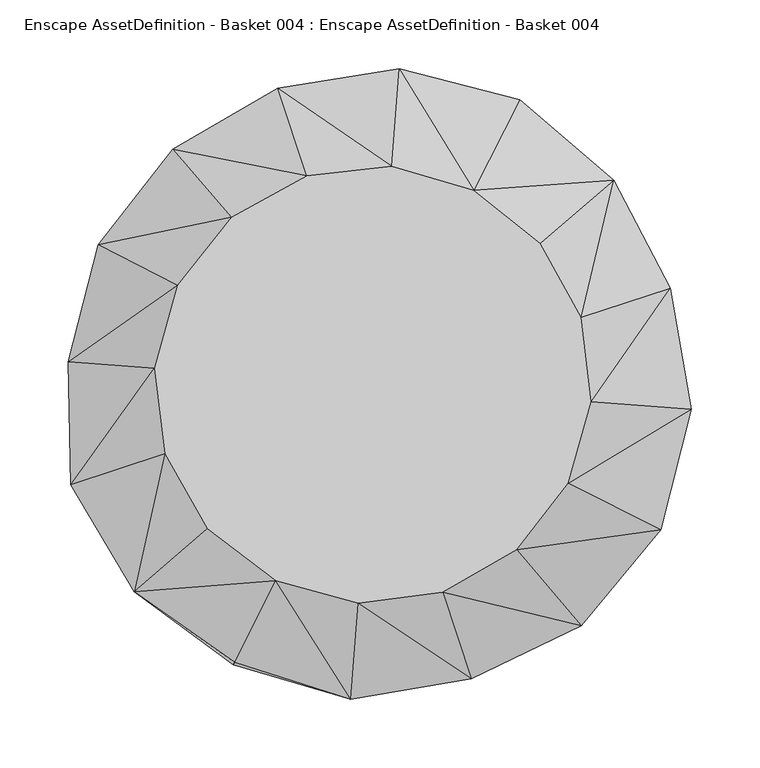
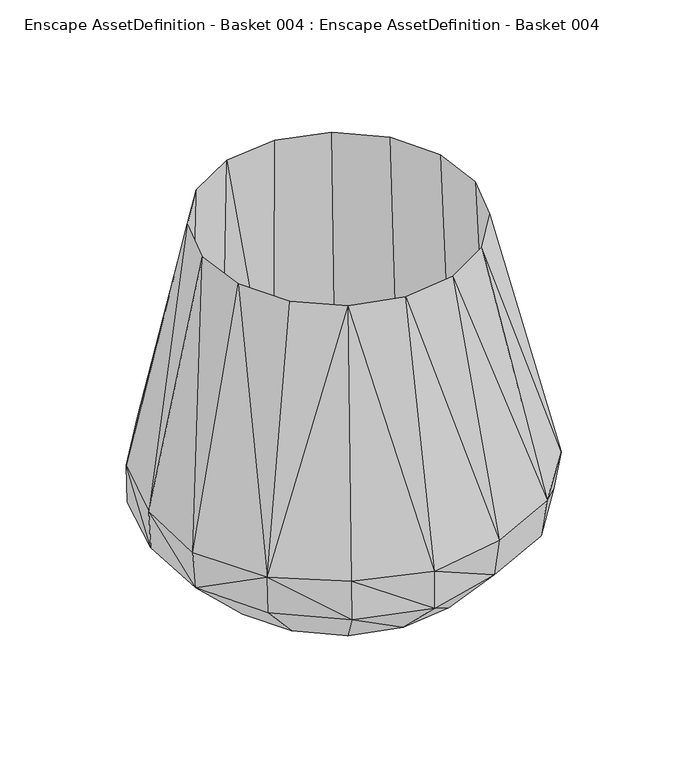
"""IFC4 building model written with IfcOpenShell, lengths in millimetres: geographic element geometry, Enscape AssetDefinition - Basket 004 : Enscape AssetDefinition - Basket 004."""

from ifc_helpers import new_model, si_unit, origin, place, context, project, spatial, triangles, source, transform, mapped, element, save


def enscape_assetdefinition_basket_004_enscape_assetdefinition_14d161dd(model_context):
    return source(origin(), model_context, "Body", "Tessellation", [
        triangles([(0.0, 0.0, 0.0), (153.7940101, -11.7659992, 0.0), (137.5849977, -69.7250001, 0.0), (100.4289989, -117.0689989, 0.0), (201.3480115, -102.0390024, 72.876997), (150.7560051, -175.7350037, 120.4959972), (146.3570004, -170.6060108, 72.876997), (208.5909924, -105.7099993, 120.4959972), (103.3339997, -120.403997, 429.558991), (70.2039952, -214.4729917, 120.4959972), (141.2300059, -71.6229992, 429.558991), (58.1070001, -164.2650098, 56.869998), (-12.1819997, -159.3640008, 429.558991), (49.5590026, -151.2729976, 429.558991), (-8.1850001, -172.9560127, 56.869998), (116.3400008, -130.8880046, 56.869998), (230.7759936, -17.6560001, 120.4959972), (157.8249959, -12.1280002, 429.558991), (157.3100019, -78.1499991, 56.869998), (175.2430098, -13.5940001, 56.869998), (150.6269978, 49.2919994, 429.558991), (215.722988, 70.6129955, 120.4959972), (167.4679938, 52.3380027, 56.869998), (174.3809984, 149.5950113, 120.4959972), (226.5450019, -17.332001, 72.876997), (212.5779947, 69.5839976, 72.876997), (169.9620094, 145.804, 72.876997), (102.3809964, 202.0230067, 72.876997), (146.5899985, 47.9839988, 0.0), (117.0689989, 100.4289989, 0.0), (69.7250001, 137.5849977, 0.0), (11.7659992, 153.7940101, 0.0), (105.5259989, 208.2280058, 120.4959972), (-47.9839988, 146.5899985, 0.0), (17.3820002, 227.1989954, 72.876997), (17.6749988, 231.0259965, 120.4959972), (-100.4289989, 117.0689989, 0.0), (-70.0630018, 214.041986, 72.876997), (-137.5849977, 69.7250001, 0.0), (-146.0440017, 170.2419887, 72.876997), (-70.8780002, 216.533004, 120.4959972), (12.2509998, 159.7129984, 429.558991), (72.0580017, 142.3070023, 429.558991), (-49.9919976, 152.8639978, 429.558991), (-147.7860102, 172.2729876, 120.4959972), (-105.0319974, 122.4910062, 429.558991), (-49.440001, 164.207001, 56.869998), (-108.6419969, 131.4969972, 56.869998), (-144.2910019, 72.934002, 429.558991), (-202.0240059, 102.3819956, 120.4959972), (-150.7279999, 78.6249973, 56.869998), (-221.5780086, 16.9520006, 72.876997), (-217.1159989, -71.0690041, 72.876997), (-223.7730054, 17.1199999, 120.4959972), (-161.2669915, 12.3579995, 429.558991), (-153.543989, -50.191999, 429.558991), (-169.4219988, 12.3870005, 56.869998), (-122.2859951, -104.8839959, 429.558991), (-222.0210048, -72.6749971, 120.4959972), (-175.927997, -150.9220016, 120.4959972), (-173.6449968, -148.9630005, 72.876997), (-103.4779952, -204.1870098, 72.876997), (-127.1129988, -114.3290044, 56.869998), (-161.0170067, -55.1920027, 56.869998), (-102.5419968, -202.3400113, 120.4959972), (-17.5650003, -229.5839879, 120.4959972), (-72.6160027, -143.1380108, 429.558991), (-73.4480014, -155.5249909, 56.869998), (-69.7250001, -137.5849977, 0.0), (-11.7659992, -153.7940101, 0.0), (68.0050015, -207.7549969, 72.876997), (-17.561, -229.5359894, 72.876997), (17.8170005, 171.6859958, 56.869998), (82.8569974, 152.7309936, 56.869998), (135.2230052, 110.6970041, 56.869998), (120.5710017, 103.522006, 429.558991), (47.9839988, -146.5899985, 0.0), (-146.5899985, -47.9839988, 0.0), (-117.0689989, -100.4289989, 0.0), (-153.7940101, 11.7659992, 0.0), (-200.8789995, 101.8019983, 72.876997)], [[81, 80, 52], [81, 39, 80], [52, 78, 53], [52, 80, 78], [53, 79, 61], [53, 78, 79], [61, 79, 69], [39, 1, 80], [79, 1, 69], [78, 1, 79], [80, 1, 78], [69, 1, 70], [70, 1, 77], [77, 1, 4], [71, 77, 4], [23, 76, 75], [75, 43, 74], [75, 76, 43], [43, 76, 24], [75, 74, 73], [73, 23, 75], [43, 73, 74], [73, 68, 15], [68, 13, 15], [10, 13, 66], [66, 71, 10], [66, 72, 71], [72, 77, 71], [72, 70, 77], [62, 70, 72], [62, 69, 70], [61, 69, 62], [65, 72, 66], [65, 62, 72], [68, 67, 13], [67, 66, 13], [67, 65, 66], [73, 63, 68], [63, 67, 68], [73, 64, 63], [63, 58, 67], [64, 58, 63], [60, 62, 65], [60, 61, 62], [60, 53, 61], [67, 60, 65], [67, 58, 60], [60, 59, 53], [64, 56, 58], [60, 56, 59], [60, 58, 56], [73, 57, 64], [57, 56, 64], [73, 51, 57], [51, 55, 57], [57, 55, 56], [59, 56, 55], [59, 55, 54], [54, 53, 59], [54, 52, 53], [50, 52, 54], [50, 81, 52], [51, 49, 55], [54, 49, 50], [54, 55, 49], [73, 48, 51], [48, 49, 51], [73, 47, 48], [48, 46, 49], [50, 49, 46], [47, 46, 48], [50, 46, 45], [45, 81, 50], [45, 46, 44], [73, 44, 47], [47, 44, 46], [43, 42, 73], [73, 42, 44], [41, 44, 42], [45, 44, 41], [41, 40, 45], [45, 40, 81], [40, 39, 81], [40, 37, 39], [37, 1, 39], [34, 1, 37], [41, 38, 40], [38, 37, 40], [38, 34, 37], [36, 42, 43], [41, 42, 36], [36, 38, 41], [36, 43, 33], [43, 24, 33], [34, 38, 35], [35, 36, 33], [36, 35, 38], [34, 35, 32], [32, 1, 34], [35, 33, 28], [32, 35, 28], [24, 28, 33], [32, 31, 1], [32, 28, 31], [30, 1, 31], [29, 1, 30], [27, 31, 28], [27, 30, 31], [24, 27, 28], [26, 30, 27], [26, 29, 30], [25, 29, 26], [17, 25, 26], [22, 27, 24], [22, 26, 27], [17, 26, 22], [23, 21, 76], [24, 21, 22], [24, 76, 21], [73, 20, 23], [20, 21, 23], [20, 18, 21], [22, 18, 17], [22, 21, 18], [73, 19, 20], [19, 18, 20], [19, 11, 18], [17, 18, 11], [73, 16, 19], [16, 11, 19], [73, 12, 16], [73, 15, 12], [15, 14, 12], [15, 13, 14], [10, 14, 13], [12, 9, 16], [12, 14, 9], [16, 9, 11], [8, 11, 9], [17, 11, 8], [8, 25, 17], [6, 14, 10], [6, 9, 14], [8, 9, 6], [10, 7, 6], [10, 71, 7], [71, 4, 7], [6, 5, 8], [6, 7, 5], [8, 5, 25], [25, 2, 29], [5, 2, 25], [2, 1, 29], [5, 3, 2], [7, 3, 5], [7, 4, 3], [4, 1, 3], [3, 1, 2]]),
    ])


if __name__ == "__main__":
    model = new_model("IFC4")
    model_context = context("Model", 3, world=origin())
    ifc_project = project(units=[si_unit("LENGTHUNIT", "METRE", prefix="MILLI")], contexts=[model_context])
    site = spatial("IfcSite", under=ifc_project)
    building = spatial("IfcBuilding", under=site)
    placement = place(None, origin())
    enscape_assetdefinition_basket_004_enscape_assetdefinition_shape = enscape_assetdefinition_basket_004_enscape_assetdefinition_14d161dd(model_context)
    element("IfcGeographicElement", 1, ObjectType="Enscape AssetDefinition - Basket 004 : Enscape AssetDefinition - Basket 004", at=placement, inside=building, context=model_context, shape_type="MappedRepresentation", body=[
        mapped(enscape_assetdefinition_basket_004_enscape_assetdefinition_shape, transform((0.0, 0.0, 0.0), x_axis=(1.0, 0.0, 0.0), y_axis=(0.0, 1.0, 0.0), z_axis=(0.0, 0.0, 1.0))),
    ])
    save(model, "model.ifc")
